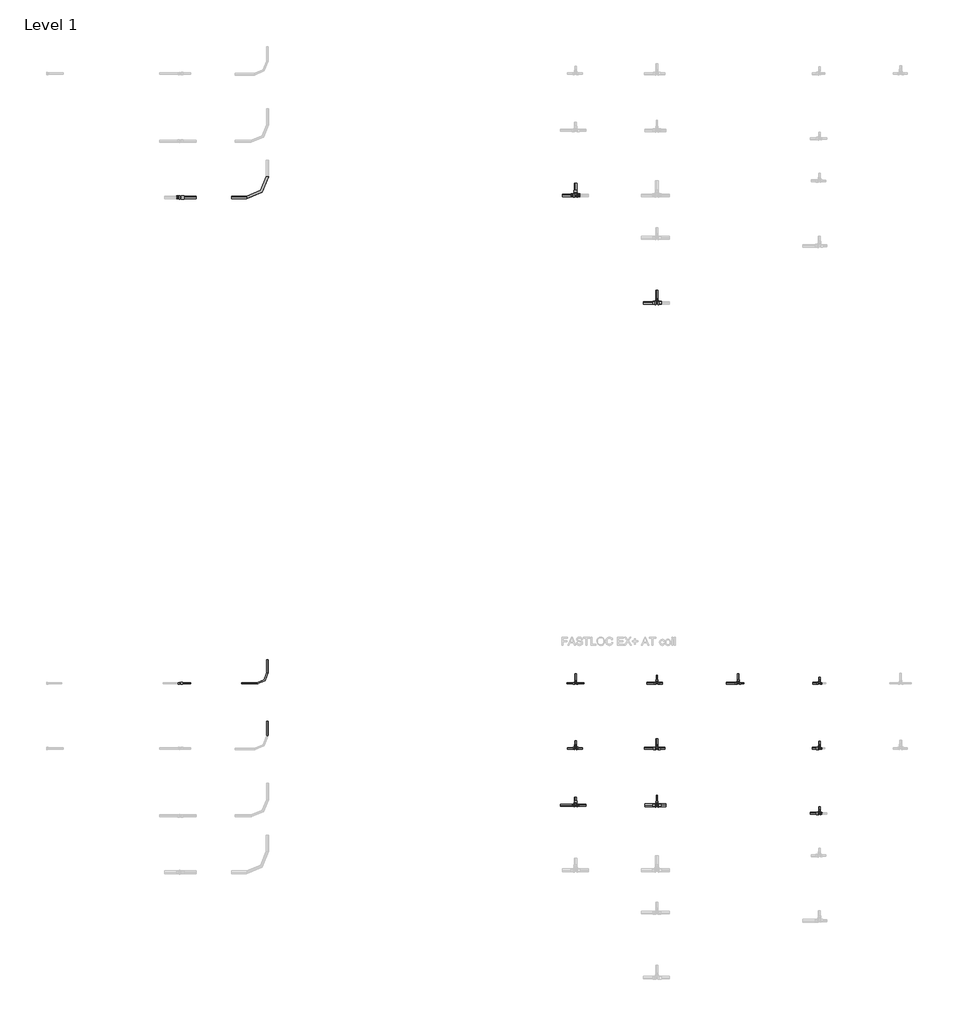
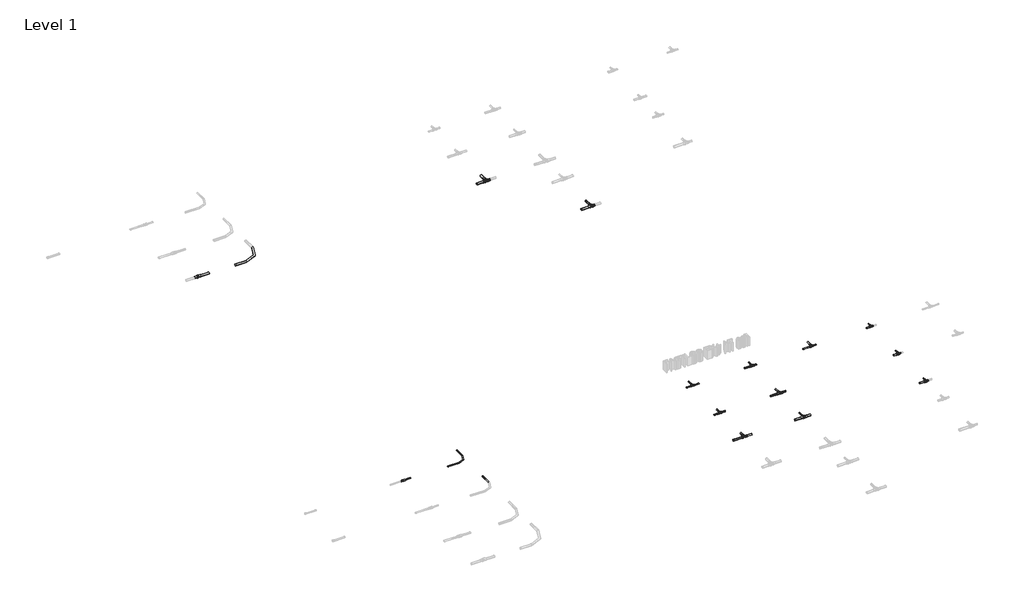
# One storey, part 6 of 16: 37 pipe segments, 18 pipe fittings.
"""IFC4 building model written with IfcOpenShell, lengths in millimetres."""

from ifc_helpers import new_model, si_unit, point, frame, frame_2d, origin, place, context, project, spatial, circle_curve, trimmed, segment, composite_curve, outline, extrude, transform, mapped, element, save
from components import pipe_fitting_6d1999ba, pipe_fitting_8a207ca9, pipe_fitting_c9c9eba3, pipe_fitting_a8fbe6ac, pipe_fitting_373418fb, pipe_fitting_bc9683d6, pipe_fitting_29655fe2, pipe_fitting_378a86a2, pipe_fitting_26206a52, pipe_fitting_e85672de, pipe_fitting_b8b68d19, pipe_fitting_24fba4d8, pipe_fitting_22a72f01, pipe_fitting_0153befe, pipe_fitting_3090ac59, pipe_fitting_8e4805be, pipe_fitting_271ef6d1, pipe_fitting_4892b1d5

model = new_model("IFC4")

# Units and contexts
model_context = context("Model", 3, world=origin())
ifc_project = project(units=[si_unit("LENGTHUNIT", "METRE", prefix="MILLI")], contexts=[model_context])

# Site, building, storey
site = spatial("IfcSite", under=ifc_project)
building = spatial("IfcBuilding", under=site)
storey = spatial("IfcBuildingStorey", under=building, Name="Level 1", Elevation=0.0)

# Pipe fittings
placement = place(None, origin())
pipe_fitting_shape = pipe_fitting_6d1999ba(model_context)
element("IfcPipeFitting", 1, ObjectType="FASTLOC_Adapter coupling EX+ : FSL TC EX+ AT", at=placement, inside=storey, context=model_context, shape_type="MappedRepresentation", body=[
    mapped(pipe_fitting_shape, transform((24091.3241081, -6287.6479967, 13.7), x_axis=(1.0, 0.0, 0.0), y_axis=(0.0, 1.0, 0.0), z_axis=(0.0, 0.0, 1.0))),
])
pipe_fitting_2_shape = pipe_fitting_8a207ca9(model_context)
element("IfcPipeFitting", 2, ObjectType="FASTLOC_ML_bend : FSL ML AT", at=placement, inside=storey, context=model_context, shape_type="MappedRepresentation", body=[
    mapped(pipe_fitting_2_shape, transform((25170.2040344, -6287.6479967, 0.0), x_axis=(1.0, 0.0, 0.0), y_axis=(0.0, 1.0, 0.0), z_axis=(0.0, 0.0, 1.0))),
])
pipe_fitting_3_shape = pipe_fitting_c9c9eba3(model_context)
element("IfcPipeFitting", 3, ObjectType="RAUTITAN_Sleeve PX : RTI S PX", at=placement, inside=storey, context=model_context, shape_type="MappedRepresentation", body=[
    mapped(pipe_fitting_3_shape, transform((24105.0241081, -6287.6479967, 13.7), x_axis=(1.0, 0.0, 0.0), y_axis=(0.0, 1.0, 0.0), z_axis=(0.0, 0.0, 1.0))),
])
pipe_fitting_4_shape = pipe_fitting_a8fbe6ac(model_context)
element("IfcPipeFitting", 4, ObjectType="RAUTITAN_Sleeve PX : RTI S PX", at=placement, inside=storey, context=model_context, shape_type="MappedRepresentation", body=[
    mapped(pipe_fitting_4_shape, transform((24110.6241081, -311.8142398, 13.7), x_axis=(1.0, 0.0, 0.0), y_axis=(0.0, 1.0, 0.0), z_axis=(0.0, 0.0, 1.0))),
])
pipe_fitting_5_shape = pipe_fitting_373418fb(model_context)
element("IfcPipeFitting", 5, ObjectType="FASTLOC_ML_bend : FSL ML DE", at=placement, inside=storey, context=model_context, shape_type="MappedRepresentation", body=[
    mapped(pipe_fitting_5_shape, transform((25170.2040344, -311.8142398, 0.0), x_axis=(1.0, 0.0, 0.0), y_axis=(0.0, 1.0, 0.0), z_axis=(0.0, 0.0, 1.0))),
])
pipe_fitting_6_shape = pipe_fitting_bc9683d6(model_context)
element("IfcPipeFitting", 6, ObjectType="FASTLOC_T-piece_EX+ : FSL T-Piece EX+ DE", at=placement, inside=storey, context=model_context, shape_type="MappedRepresentation", body=[
    mapped(pipe_fitting_6_shape, transform((28962.9146925, -287.6479967, 0.0), x_axis=(1.0, 0.0, 0.0), y_axis=(0.0, 1.0, 0.0), z_axis=(0.0, 0.0, 1.0))),
])
pipe_fitting_7_shape = pipe_fitting_29655fe2(model_context)
element("IfcPipeFitting", 7, ObjectType="FASTLOC_T-piece_EX+ : FSL T-Piece EX+ DE", at=placement, inside=storey, context=model_context, shape_type="MappedRepresentation", body=[
    mapped(pipe_fitting_7_shape, transform((29962.9146925, -1607.6479967, 0.0), x_axis=(1.0, 0.0, 0.0), y_axis=(0.0, 1.0, 0.0), z_axis=(0.0, 0.0, 1.0))),
])
pipe_fitting_8_shape = pipe_fitting_378a86a2(model_context)
element("IfcPipeFitting", 8, ObjectType="FASTLOC_T-piece_EX+ : FSL T-Piece EX+ AT", at=placement, inside=storey, context=model_context, shape_type="MappedRepresentation", body=[
    mapped(pipe_fitting_8_shape, transform((28962.9146925, -6287.6479967, 0.0), x_axis=(1.0, 0.0, 0.0), y_axis=(0.0, 1.0, 0.0), z_axis=(0.0, 0.0, 1.0))),
])
pipe_fitting_9_shape = pipe_fitting_26206a52(model_context)
element("IfcPipeFitting", 9, ObjectType="FASTLOC_T-piece_EX+ : FSL T-Piece EX+ AT", at=placement, inside=storey, context=model_context, shape_type="MappedRepresentation", body=[
    mapped(pipe_fitting_9_shape, transform((28962.9146925, -7087.6479967, 0.0), x_axis=(1.0, 0.0, 0.0), y_axis=(0.0, 1.0, 0.0), z_axis=(0.0, 0.0, 1.0))),
])
pipe_fitting_10_shape = pipe_fitting_e85672de(model_context)
element("IfcPipeFitting", 10, ObjectType="FASTLOC_T-piece_EX+ : FSL T-Piece EX+ AT", at=placement, inside=storey, context=model_context, shape_type="MappedRepresentation", body=[
    mapped(pipe_fitting_10_shape, transform((28962.9146925, -7787.6479967, 0.0), x_axis=(1.0, 0.0, 0.0), y_axis=(0.0, 1.0, 0.0), z_axis=(0.0, 0.0, 1.0))),
])
pipe_fitting_11_shape = pipe_fitting_b8b68d19(model_context)
element("IfcPipeFitting", 11, ObjectType="FASTLOC_T-piece_EX+ : FSL T-Piece EX+ AT", at=placement, inside=storey, context=model_context, shape_type="MappedRepresentation", body=[
    mapped(pipe_fitting_11_shape, transform((29962.9146925, -6287.6479967, 0.0), x_axis=(1.0, 0.0, 0.0), y_axis=(0.0, 1.0, 0.0), z_axis=(0.0, 0.0, 1.0))),
])
pipe_fitting_12_shape = pipe_fitting_24fba4d8(model_context)
element("IfcPipeFitting", 12, ObjectType="FASTLOC_T-piece_EX+ : FSL T-Piece EX+ AT", at=placement, inside=storey, context=model_context, shape_type="MappedRepresentation", body=[
    mapped(pipe_fitting_12_shape, transform((29962.9146925, -7087.6479967, 0.0), x_axis=(1.0, 0.0, 0.0), y_axis=(0.0, 1.0, 0.0), z_axis=(0.0, 0.0, 1.0))),
])
pipe_fitting_13_shape = pipe_fitting_22a72f01(model_context)
element("IfcPipeFitting", 13, ObjectType="FASTLOC_T-piece_EX+ : FSL T-Piece EX+ AT", at=placement, inside=storey, context=model_context, shape_type="MappedRepresentation", body=[
    mapped(pipe_fitting_13_shape, transform((29962.9146925, -7787.6479967, 0.0), x_axis=(1.0, 0.0, 0.0), y_axis=(0.0, 1.0, 0.0), z_axis=(0.0, 0.0, 1.0))),
])
pipe_fitting_14_shape = pipe_fitting_0153befe(model_context)
element("IfcPipeFitting", 14, ObjectType="FASTLOC_T-piece_EX+ : FSL T-Piece EX+ AT", at=placement, inside=storey, context=model_context, shape_type="MappedRepresentation", body=[
    mapped(pipe_fitting_14_shape, transform((30962.9146925, -6287.6479967, 0.0), x_axis=(1.0, 0.0, 0.0), y_axis=(0.0, 1.0, 0.0), z_axis=(0.0, 0.0, 1.0))),
])
pipe_fitting_15_shape = pipe_fitting_3090ac59(model_context)
element("IfcPipeFitting", 15, ObjectType="FASTLOC_T-piece_EX+ : FSL T-Piece EX+ AT", at=placement, inside=storey, context=model_context, shape_type="MappedRepresentation", body=[
    mapped(pipe_fitting_15_shape, transform((31962.9146925, -6287.6479967, 0.0), x_axis=(1.0, 0.0, 0.0), y_axis=(0.0, 1.0, 0.0), z_axis=(0.0, 0.0, 1.0))),
])
pipe_fitting_16_shape = pipe_fitting_8e4805be(model_context)
element("IfcPipeFitting", 16, ObjectType="FASTLOC_T-piece_EX+ : FSL T-Piece EX+ AT", at=placement, inside=storey, context=model_context, shape_type="MappedRepresentation", body=[
    mapped(pipe_fitting_16_shape, transform((31962.9146925, -7087.6479967, 0.0), x_axis=(1.0, 0.0, 0.0), y_axis=(0.0, 1.0, 0.0), z_axis=(0.0, 0.0, 1.0))),
])
pipe_fitting_17_shape = pipe_fitting_271ef6d1(model_context)
element("IfcPipeFitting", 17, ObjectType="FASTLOC_T-piece_EX+ : FSL T-Piece EX+ AT", at=placement, inside=storey, context=model_context, shape_type="MappedRepresentation", body=[
    mapped(pipe_fitting_17_shape, transform((31962.9146925, -7887.6479967, 0.0), x_axis=(1.0, 0.0, 0.0), y_axis=(0.0, 1.0, 0.0), z_axis=(0.0, 0.0, 1.0))),
])
pipe_fitting_18_shape = pipe_fitting_4892b1d5(model_context)
element("IfcPipeFitting", 18, ObjectType="FASTLOC_Adapter coupling EX+ : FSL TC EX+ DE", at=placement, inside=storey, context=model_context, shape_type="MappedRepresentation", body=[
    mapped(pipe_fitting_18_shape, transform((24091.3241081, -311.8142398, 13.7), x_axis=(1.0, 0.0, 0.0), y_axis=(0.0, 1.0, 0.0), z_axis=(0.0, 0.0, 1.0))),
])

# Pipe segments
element("IfcPipeSegment", 19, ObjectType="FASTLOC EX+ ML DE bar", at=placement, inside=storey, context=model_context, shape_type="SweptSolid", body=[
    extrude(outline(composite_curve([segment(trimmed(circle_curve(frame_2d((-311.8142398, 0.0)), 16.0), [point((-295.8142398, 0.0))], [point((-311.8142398, -16.0))], False, "CARTESIAN"), True, "CONTINUOUS"), segment(trimmed(circle_curve(frame_2d((-311.8142398, 0.0)), 16.0), [point((-311.8142398, -16.0))], [point((-327.8142398, 0.0))], False, "CARTESIAN"), True, "CONTINUOUS"), segment(trimmed(circle_curve(frame_2d((-311.8142398, 0.0)), 16.0), [point((-327.8142398, 0.0))], [point((-311.8142398, 16.0))], False, "CARTESIAN"), True, "CONTINUOUS"), segment(trimmed(circle_curve(frame_2d((-311.8142398, 0.0)), 16.0), [point((-311.8142398, 16.0))], [point((-295.8142398, 0.0))], False, "CARTESIAN"), True, "CONTINUOUS")], self_intersect=False)), frame((24730.2040344, 0.0, 0.0), z_axis=(1.0, 0.0, 0.0), x_axis=(0.0, 1.0, 0.0)), (0.0, 0.0, 1.0), 184.0),
])
element("IfcPipeSegment", 20, ObjectType="FASTLOC EX+ ML DE bar", at=placement, inside=storey, context=model_context, shape_type="SweptSolid", body=[
    extrude(outline(composite_curve([segment(trimmed(circle_curve(frame_2d((-311.8142398, 13.7)), 16.0), [point((-327.8142398, 13.7))], [point((-311.8142398, 29.7))], False, "CARTESIAN"), True, "CONTINUOUS"), segment(trimmed(circle_curve(frame_2d((-311.8142398, 13.7)), 16.0), [point((-311.8142398, 29.7))], [point((-295.8142398, 13.7))], False, "CARTESIAN"), True, "CONTINUOUS"), segment(trimmed(circle_curve(frame_2d((-311.8142398, 13.7)), 16.0), [point((-295.8142398, 13.7))], [point((-311.8142398, -2.3))], False, "CARTESIAN"), True, "CONTINUOUS"), segment(trimmed(circle_curve(frame_2d((-311.8142398, 13.7)), 16.0), [point((-311.8142398, -2.3))], [point((-327.8142398, 13.7))], False, "CARTESIAN"), True, "CONTINUOUS")], self_intersect=False)), frame((24110.6241081, 0.0, 0.0), z_axis=(1.0, 0.0, 0.0), x_axis=(0.0, 1.0, 0.0)), (0.0, 0.0, 1.0), 180.0),
])
element("IfcPipeSegment", 21, ObjectType="FASTLOC EX+ ML AT bar", at=placement, inside=storey, context=model_context, shape_type="SweptSolid", body=[
    extrude(outline(composite_curve([segment(trimmed(circle_curve(frame_2d((0.0, 25170.2040344)), 8.0), [point((0.0, 25178.2040344))], [point((8.0, 25170.2040344))], False, "CARTESIAN"), True, "CONTINUOUS"), segment(trimmed(circle_curve(frame_2d((0.0, 25170.2040344)), 8.0), [point((8.0, 25170.2040344))], [point((0.0, 25162.2040344))], False, "CARTESIAN"), True, "CONTINUOUS"), segment(trimmed(circle_curve(frame_2d((0.0, 25170.2040344)), 8.0), [point((0.0, 25162.2040344))], [point((-8.0, 25170.2040344))], False, "CARTESIAN"), True, "CONTINUOUS"), segment(trimmed(circle_curve(frame_2d((0.0, 25170.2040344)), 8.0), [point((-8.0, 25170.2040344))], [point((0.0, 25178.2040344))], False, "CARTESIAN"), True, "CONTINUOUS")], self_intersect=False)), frame((0.0, -6159.6479967, 0.0), z_axis=(0.0, 1.0, 0.0), x_axis=(0.0, 0.0, 1.0)), (0.0, 0.0, 1.0), 160.0),
])
element("IfcPipeSegment", 22, ObjectType="FASTLOC EX+ ML AT bar", at=placement, inside=storey, context=model_context, shape_type="SweptSolid", body=[
    extrude(outline(composite_curve([segment(trimmed(circle_curve(frame_2d((-6287.6479967, 0.0)), 8.0), [point((-6279.6479967, 0.0))], [point((-6287.6479967, -8.0))], False, "CARTESIAN"), True, "CONTINUOUS"), segment(trimmed(circle_curve(frame_2d((-6287.6479967, 0.0)), 8.0), [point((-6287.6479967, -8.0))], [point((-6295.6479967, 0.0))], False, "CARTESIAN"), True, "CONTINUOUS"), segment(trimmed(circle_curve(frame_2d((-6287.6479967, 0.0)), 8.0), [point((-6295.6479967, 0.0))], [point((-6287.6479967, 8.0))], False, "CARTESIAN"), True, "CONTINUOUS"), segment(trimmed(circle_curve(frame_2d((-6287.6479967, 0.0)), 8.0), [point((-6287.6479967, 8.0))], [point((-6279.6479967, 0.0))], False, "CARTESIAN"), True, "CONTINUOUS")], self_intersect=False)), frame((24850.2040344, 0.0, 0.0), z_axis=(1.0, 0.0, 0.0), x_axis=(0.0, 1.0, 0.0)), (0.0, 0.0, 1.0), 192.0),
])
element("IfcPipeSegment", 23, ObjectType="FASTLOC EX+ ML AT bar", at=placement, inside=storey, context=model_context, shape_type="SweptSolid", body=[
    extrude(outline(composite_curve([segment(trimmed(circle_curve(frame_2d((0.0, 25170.2040344)), 10.0), [point((0.0, 25180.2040344))], [point((10.0, 25170.2040344))], False, "CARTESIAN"), True, "CONTINUOUS"), segment(trimmed(circle_curve(frame_2d((0.0, 25170.2040344)), 10.0), [point((10.0, 25170.2040344))], [point((0.0, 25160.2040344))], False, "CARTESIAN"), True, "CONTINUOUS"), segment(trimmed(circle_curve(frame_2d((0.0, 25170.2040344)), 10.0), [point((0.0, 25160.2040344))], [point((-10.0, 25170.2040344))], False, "CARTESIAN"), True, "CONTINUOUS"), segment(trimmed(circle_curve(frame_2d((0.0, 25170.2040344)), 10.0), [point((-10.0, 25170.2040344))], [point((0.0, 25180.2040344))], False, "CARTESIAN"), True, "CONTINUOUS")], self_intersect=False)), frame((0.0, -6935.6479967, 0.0), z_axis=(0.0, 1.0, 0.0), x_axis=(0.0, 0.0, 1.0)), (0.0, 0.0, 1.0), 180.0),
])
element("IfcPipeSegment", 24, ObjectType="FASTLOC EX+ ML AT bar", at=placement, inside=storey, context=model_context, shape_type="SweptSolid", body=[
    extrude(outline(composite_curve([segment(trimmed(circle_curve(frame_2d((-6287.6479967, 13.7)), 8.0), [point((-6295.6479967, 13.7))], [point((-6287.6479967, 21.7))], False, "CARTESIAN"), True, "CONTINUOUS"), segment(trimmed(circle_curve(frame_2d((-6287.6479967, 13.7)), 8.0), [point((-6287.6479967, 21.7))], [point((-6279.6479967, 13.7))], False, "CARTESIAN"), True, "CONTINUOUS"), segment(trimmed(circle_curve(frame_2d((-6287.6479967, 13.7)), 8.0), [point((-6279.6479967, 13.7))], [point((-6287.6479967, 5.7))], False, "CARTESIAN"), True, "CONTINUOUS"), segment(trimmed(circle_curve(frame_2d((-6287.6479967, 13.7)), 8.0), [point((-6287.6479967, 5.7))], [point((-6295.6479967, 13.7))], False, "CARTESIAN"), True, "CONTINUOUS")], self_intersect=False)), frame((24105.0241081, 0.0, 0.0), z_axis=(1.0, 0.0, 0.0), x_axis=(0.0, 1.0, 0.0)), (0.0, 0.0, 1.0), 120.6),
])
element("IfcPipeSegment", 25, ObjectType="FASTLOC EX+ ML DE coil", at=placement, inside=storey, context=model_context, shape_type="SweptSolid", body=[
    extrude(outline(composite_curve([segment(trimmed(circle_curve(frame_2d((-1607.6479967, 0.0)), 16.0), [point((-1591.6479967, 0.0))], [point((-1607.6479967, -16.0))], False, "CARTESIAN"), True, "CONTINUOUS"), segment(trimmed(circle_curve(frame_2d((-1607.6479967, 0.0)), 16.0), [point((-1607.6479967, -16.0))], [point((-1623.6479967, 0.0))], False, "CARTESIAN"), True, "CONTINUOUS"), segment(trimmed(circle_curve(frame_2d((-1607.6479967, 0.0)), 16.0), [point((-1623.6479967, 0.0))], [point((-1607.6479967, 16.0))], False, "CARTESIAN"), True, "CONTINUOUS"), segment(trimmed(circle_curve(frame_2d((-1607.6479967, 0.0)), 16.0), [point((-1607.6479967, 16.0))], [point((-1591.6479967, 0.0))], False, "CARTESIAN"), True, "CONTINUOUS")], self_intersect=False)), frame((29795.9146925, 0.0, 0.0), z_axis=(1.0, 0.0, 0.0), x_axis=(0.0, 1.0, 0.0)), (0.0, 0.0, 1.0), 145.0),
])
element("IfcPipeSegment", 26, ObjectType="FASTLOC EX+ ML DE coil", at=placement, inside=storey, context=model_context, shape_type="SweptSolid", body=[
    extrude(outline(composite_curve([segment(trimmed(circle_curve(frame_2d((0.0, 29962.9146925)), 12.5), [point((0.0, 29975.4146925))], [point((12.5, 29962.9146925))], False, "CARTESIAN"), True, "CONTINUOUS"), segment(trimmed(circle_curve(frame_2d((0.0, 29962.9146925)), 12.5), [point((12.5, 29962.9146925))], [point((0.0, 29950.4146925))], False, "CARTESIAN"), True, "CONTINUOUS"), segment(trimmed(circle_curve(frame_2d((0.0, 29962.9146925)), 12.5), [point((0.0, 29950.4146925))], [point((-12.5, 29962.9146925))], False, "CARTESIAN"), True, "CONTINUOUS"), segment(trimmed(circle_curve(frame_2d((0.0, 29962.9146925)), 12.5), [point((-12.5, 29962.9146925))], [point((0.0, 29975.4146925))], False, "CARTESIAN"), True, "CONTINUOUS")], self_intersect=False)), frame((0.0, -1573.2479967, 0.0), z_axis=(0.0, 1.0, 0.0), x_axis=(0.0, 0.0, 1.0)), (0.0, 0.0, 1.0), 120.0),
])
element("IfcPipeSegment", 27, ObjectType="FASTLOC EX+ ML DE coil", at=placement, inside=storey, context=model_context, shape_type="SweptSolid", body=[
    extrude(outline(composite_curve([segment(trimmed(circle_curve(frame_2d((-287.6479967, 0.0)), 16.0), [point((-271.6479967, 0.0))], [point((-287.6479967, -16.0))], False, "CARTESIAN"), True, "CONTINUOUS"), segment(trimmed(circle_curve(frame_2d((-287.6479967, 0.0)), 16.0), [point((-287.6479967, -16.0))], [point((-303.6479967, 0.0))], False, "CARTESIAN"), True, "CONTINUOUS"), segment(trimmed(circle_curve(frame_2d((-287.6479967, 0.0)), 16.0), [point((-303.6479967, 0.0))], [point((-287.6479967, 16.0))], False, "CARTESIAN"), True, "CONTINUOUS"), segment(trimmed(circle_curve(frame_2d((-287.6479967, 0.0)), 16.0), [point((-287.6479967, 16.0))], [point((-271.6479967, 0.0))], False, "CARTESIAN"), True, "CONTINUOUS")], self_intersect=False)), frame((28803.1146925, 0.0, 0.0), z_axis=(1.0, 0.0, 0.0), x_axis=(0.0, 1.0, 0.0)), (0.0, 0.0, 1.0), 135.0),
])
element("IfcPipeSegment", 28, ObjectType="FASTLOC EX+ ML DE coil", at=placement, inside=storey, context=model_context, shape_type="SweptSolid", body=[
    extrude(outline(composite_curve([segment(trimmed(circle_curve(frame_2d((0.0, 28962.9146925)), 16.0), [point((0.0, 28978.9146925))], [point((16.0, 28962.9146925))], False, "CARTESIAN"), True, "CONTINUOUS"), segment(trimmed(circle_curve(frame_2d((0.0, 28962.9146925)), 16.0), [point((16.0, 28962.9146925))], [point((0.0, 28946.9146925))], False, "CARTESIAN"), True, "CONTINUOUS"), segment(trimmed(circle_curve(frame_2d((0.0, 28962.9146925)), 16.0), [point((0.0, 28946.9146925))], [point((-16.0, 28962.9146925))], False, "CARTESIAN"), True, "CONTINUOUS"), segment(trimmed(circle_curve(frame_2d((0.0, 28962.9146925)), 16.0), [point((-16.0, 28962.9146925))], [point((0.0, 28978.9146925))], False, "CARTESIAN"), True, "CONTINUOUS")], self_intersect=False)), frame((0.0, -251.5479967, 0.0), z_axis=(0.0, 1.0, 0.0), x_axis=(0.0, 0.0, 1.0)), (0.0, 0.0, 1.0), 115.0),
])
element("IfcPipeSegment", 29, ObjectType="FASTLOC EX+ ML AT coil", at=placement, inside=storey, context=model_context, shape_type="SweptSolid", body=[
    extrude(outline(composite_curve([segment(trimmed(circle_curve(frame_2d((-6287.6479967, 0.0)), 10.0), [point((-6277.6479967, 0.0))], [point((-6287.6479967, -10.0))], False, "CARTESIAN"), True, "CONTINUOUS"), segment(trimmed(circle_curve(frame_2d((-6287.6479967, 0.0)), 10.0), [point((-6287.6479967, -10.0))], [point((-6297.6479967, 0.0))], False, "CARTESIAN"), True, "CONTINUOUS"), segment(trimmed(circle_curve(frame_2d((-6287.6479967, 0.0)), 10.0), [point((-6297.6479967, 0.0))], [point((-6287.6479967, 10.0))], False, "CARTESIAN"), True, "CONTINUOUS"), segment(trimmed(circle_curve(frame_2d((-6287.6479967, 0.0)), 10.0), [point((-6287.6479967, 10.0))], [point((-6277.6479967, 0.0))], False, "CARTESIAN"), True, "CONTINUOUS")], self_intersect=False)), frame((31882.4146925, 0.0, 0.0), z_axis=(1.0, 0.0, 0.0), x_axis=(0.0, 1.0, 0.0)), (0.0, 0.0, 1.0), 65.0),
])
element("IfcPipeSegment", 30, ObjectType="FASTLOC EX+ ML AT coil", at=placement, inside=storey, context=model_context, shape_type="SweptSolid", body=[
    extrude(outline(composite_curve([segment(trimmed(circle_curve(frame_2d((0.0, 31962.9146925)), 8.0), [point((0.0, 31970.9146925))], [point((8.0, 31962.9146925))], False, "CARTESIAN"), True, "CONTINUOUS"), segment(trimmed(circle_curve(frame_2d((0.0, 31962.9146925)), 8.0), [point((8.0, 31962.9146925))], [point((0.0, 31954.9146925))], False, "CARTESIAN"), True, "CONTINUOUS"), segment(trimmed(circle_curve(frame_2d((0.0, 31962.9146925)), 8.0), [point((0.0, 31954.9146925))], [point((-8.0, 31962.9146925))], False, "CARTESIAN"), True, "CONTINUOUS"), segment(trimmed(circle_curve(frame_2d((0.0, 31962.9146925)), 8.0), [point((-8.0, 31962.9146925))], [point((0.0, 31970.9146925))], False, "CARTESIAN"), True, "CONTINUOUS")], self_intersect=False)), frame((0.0, -6261.2479967, 0.0), z_axis=(0.0, 1.0, 0.0), x_axis=(0.0, 0.0, 1.0)), (0.0, 0.0, 1.0), 50.0),
])
element("IfcPipeSegment", 31, ObjectType="FASTLOC EX+ ML AT coil", at=placement, inside=storey, context=model_context, shape_type="SweptSolid", body=[
    extrude(outline(composite_curve([segment(trimmed(circle_curve(frame_2d((-7087.6479967, 0.0)), 12.5), [point((-7075.1479967, 0.0))], [point((-7087.6479967, -12.5))], False, "CARTESIAN"), True, "CONTINUOUS"), segment(trimmed(circle_curve(frame_2d((-7087.6479967, 0.0)), 12.5), [point((-7087.6479967, -12.5))], [point((-7100.1479967, 0.0))], False, "CARTESIAN"), True, "CONTINUOUS"), segment(trimmed(circle_curve(frame_2d((-7087.6479967, 0.0)), 12.5), [point((-7100.1479967, 0.0))], [point((-7087.6479967, 12.5))], False, "CARTESIAN"), True, "CONTINUOUS"), segment(trimmed(circle_curve(frame_2d((-7087.6479967, 0.0)), 12.5), [point((-7087.6479967, 12.5))], [point((-7075.1479967, 0.0))], False, "CARTESIAN"), True, "CONTINUOUS")], self_intersect=False)), frame((31876.5146925, 0.0, 0.0), z_axis=(1.0, 0.0, 0.0), x_axis=(0.0, 1.0, 0.0)), (0.0, 0.0, 1.0), 70.0),
])
element("IfcPipeSegment", 32, ObjectType="FASTLOC EX+ ML AT coil", at=placement, inside=storey, context=model_context, shape_type="SweptSolid", body=[
    extrude(outline(composite_curve([segment(trimmed(circle_curve(frame_2d((0.0, 31962.9146925)), 8.0), [point((0.0, 31970.9146925))], [point((8.0, 31962.9146925))], False, "CARTESIAN"), True, "CONTINUOUS"), segment(trimmed(circle_curve(frame_2d((0.0, 31962.9146925)), 8.0), [point((8.0, 31962.9146925))], [point((0.0, 31954.9146925))], False, "CARTESIAN"), True, "CONTINUOUS"), segment(trimmed(circle_curve(frame_2d((0.0, 31962.9146925)), 8.0), [point((0.0, 31954.9146925))], [point((-8.0, 31962.9146925))], False, "CARTESIAN"), True, "CONTINUOUS"), segment(trimmed(circle_curve(frame_2d((0.0, 31962.9146925)), 8.0), [point((-8.0, 31962.9146925))], [point((0.0, 31970.9146925))], False, "CARTESIAN"), True, "CONTINUOUS")], self_intersect=False)), frame((0.0, -7058.5479967, 0.0), z_axis=(0.0, 1.0, 0.0), x_axis=(0.0, 0.0, 1.0)), (0.0, 0.0, 1.0), 57.2788778),
])
element("IfcPipeSegment", 33, ObjectType="FASTLOC EX+ ML AT coil", at=placement, inside=storey, context=model_context, shape_type="SweptSolid", body=[
    extrude(outline(composite_curve([segment(trimmed(circle_curve(frame_2d((0.0, 31962.9146925)), 8.0), [point((0.0, 31970.9146925))], [point((8.0, 31962.9146925))], False, "CARTESIAN"), True, "CONTINUOUS"), segment(trimmed(circle_curve(frame_2d((0.0, 31962.9146925)), 8.0), [point((8.0, 31962.9146925))], [point((0.0, 31954.9146925))], False, "CARTESIAN"), True, "CONTINUOUS"), segment(trimmed(circle_curve(frame_2d((0.0, 31962.9146925)), 8.0), [point((0.0, 31954.9146925))], [point((-8.0, 31962.9146925))], False, "CARTESIAN"), True, "CONTINUOUS"), segment(trimmed(circle_curve(frame_2d((0.0, 31962.9146925)), 8.0), [point((-8.0, 31962.9146925))], [point((0.0, 31970.9146925))], False, "CARTESIAN"), True, "CONTINUOUS")], self_intersect=False)), frame((0.0, -7858.5479967, 0.0), z_axis=(0.0, 1.0, 0.0), x_axis=(0.0, 0.0, 1.0)), (0.0, 0.0, 1.0), 50.0),
])
element("IfcPipeSegment", 34, ObjectType="FASTLOC EX+ ML AT coil", at=placement, inside=storey, context=model_context, shape_type="SweptSolid", body=[
    extrude(outline(composite_curve([segment(trimmed(circle_curve(frame_2d((-7887.6479967, 0.0)), 12.5), [point((-7875.1479967, 0.0))], [point((-7887.6479967, -12.5))], False, "CARTESIAN"), True, "CONTINUOUS"), segment(trimmed(circle_curve(frame_2d((-7887.6479967, 0.0)), 12.5), [point((-7887.6479967, -12.5))], [point((-7900.1479967, 0.0))], False, "CARTESIAN"), True, "CONTINUOUS"), segment(trimmed(circle_curve(frame_2d((-7887.6479967, 0.0)), 12.5), [point((-7900.1479967, 0.0))], [point((-7887.6479967, 12.5))], False, "CARTESIAN"), True, "CONTINUOUS"), segment(trimmed(circle_curve(frame_2d((-7887.6479967, 0.0)), 12.5), [point((-7887.6479967, 12.5))], [point((-7875.1479967, 0.0))], False, "CARTESIAN"), True, "CONTINUOUS")], self_intersect=False)), frame((31851.5146925, 0.0, 0.0), z_axis=(1.0, 0.0, 0.0), x_axis=(0.0, 1.0, 0.0)), (0.0, 0.0, 1.0), 95.0),
])
element("IfcPipeSegment", 35, ObjectType="FASTLOC EX+ ML AT coil", at=placement, inside=storey, context=model_context, shape_type="SweptSolid", body=[
    extrude(outline(composite_curve([segment(trimmed(circle_curve(frame_2d((-6287.6479967, 0.0)), 8.0), [point((-6295.6479967, 0.0))], [point((-6287.6479967, 8.0))], False, "CARTESIAN"), True, "CONTINUOUS"), segment(trimmed(circle_curve(frame_2d((-6287.6479967, 0.0)), 8.0), [point((-6287.6479967, 8.0))], [point((-6279.6479967, 0.0))], False, "CARTESIAN"), True, "CONTINUOUS"), segment(trimmed(circle_curve(frame_2d((-6287.6479967, 0.0)), 8.0), [point((-6279.6479967, 0.0))], [point((-6287.6479967, -8.0))], False, "CARTESIAN"), True, "CONTINUOUS"), segment(trimmed(circle_curve(frame_2d((-6287.6479967, 0.0)), 8.0), [point((-6287.6479967, -8.0))], [point((-6295.6479967, 0.0))], False, "CARTESIAN"), True, "CONTINUOUS")], self_intersect=False)), frame((30979.9146925, 0.0, 0.0), z_axis=(1.0, 0.0, 0.0), x_axis=(0.0, 1.0, 0.0)), (0.0, 0.0, 1.0), 55.0),
])
element("IfcPipeSegment", 36, ObjectType="FASTLOC EX+ ML AT coil", at=placement, inside=storey, context=model_context, shape_type="SweptSolid", body=[
    extrude(outline(composite_curve([segment(trimmed(circle_curve(frame_2d((0.0, 30962.9146925)), 10.0), [point((0.0, 30972.9146925))], [point((10.0, 30962.9146925))], False, "CARTESIAN"), True, "CONTINUOUS"), segment(trimmed(circle_curve(frame_2d((0.0, 30962.9146925)), 10.0), [point((10.0, 30962.9146925))], [point((0.0, 30952.9146925))], False, "CARTESIAN"), True, "CONTINUOUS"), segment(trimmed(circle_curve(frame_2d((0.0, 30962.9146925)), 10.0), [point((0.0, 30952.9146925))], [point((-10.0, 30962.9146925))], False, "CARTESIAN"), True, "CONTINUOUS"), segment(trimmed(circle_curve(frame_2d((0.0, 30962.9146925)), 10.0), [point((-10.0, 30962.9146925))], [point((0.0, 30972.9146925))], False, "CARTESIAN"), True, "CONTINUOUS")], self_intersect=False)), frame((0.0, -6261.2479967, 0.0), z_axis=(0.0, 1.0, 0.0), x_axis=(0.0, 0.0, 1.0)), (0.0, 0.0, 1.0), 90.0),
])
element("IfcPipeSegment", 37, ObjectType="FASTLOC EX+ ML AT coil", at=placement, inside=storey, context=model_context, shape_type="SweptSolid", body=[
    extrude(outline(composite_curve([segment(trimmed(circle_curve(frame_2d((-6287.6479967, 0.0)), 10.0), [point((-6277.6479967, 0.0))], [point((-6287.6479967, -10.0))], False, "CARTESIAN"), True, "CONTINUOUS"), segment(trimmed(circle_curve(frame_2d((-6287.6479967, 0.0)), 10.0), [point((-6287.6479967, -10.0))], [point((-6297.6479967, 0.0))], False, "CARTESIAN"), True, "CONTINUOUS"), segment(trimmed(circle_curve(frame_2d((-6287.6479967, 0.0)), 10.0), [point((-6297.6479967, 0.0))], [point((-6287.6479967, 10.0))], False, "CARTESIAN"), True, "CONTINUOUS"), segment(trimmed(circle_curve(frame_2d((-6287.6479967, 0.0)), 10.0), [point((-6287.6479967, 10.0))], [point((-6277.6479967, 0.0))], False, "CARTESIAN"), True, "CONTINUOUS")], self_intersect=False)), frame((30815.5146925, 0.0, 0.0), z_axis=(1.0, 0.0, 0.0), x_axis=(0.0, 1.0, 0.0)), (0.0, 0.0, 1.0), 130.0),
])
element("IfcPipeSegment", 38, ObjectType="FASTLOC EX+ ML AT coil", at=placement, inside=storey, context=model_context, shape_type="SweptSolid", body=[
    extrude(outline(composite_curve([segment(trimmed(circle_curve(frame_2d((-6287.6479967, 0.0)), 10.0), [point((-6297.6479967, 0.0))], [point((-6287.6479967, 10.0))], False, "CARTESIAN"), True, "CONTINUOUS"), segment(trimmed(circle_curve(frame_2d((-6287.6479967, 0.0)), 10.0), [point((-6287.6479967, 10.0))], [point((-6277.6479967, 0.0))], False, "CARTESIAN"), True, "CONTINUOUS"), segment(trimmed(circle_curve(frame_2d((-6287.6479967, 0.0)), 10.0), [point((-6277.6479967, 0.0))], [point((-6287.6479967, -10.0))], False, "CARTESIAN"), True, "CONTINUOUS"), segment(trimmed(circle_curve(frame_2d((-6287.6479967, 0.0)), 10.0), [point((-6287.6479967, -10.0))], [point((-6297.6479967, 0.0))], False, "CARTESIAN"), True, "CONTINUOUS")], self_intersect=False)), frame((29978.2146925, 0.0, 0.0), z_axis=(1.0, 0.0, 0.0), x_axis=(0.0, 1.0, 0.0)), (0.0, 0.0, 1.0), 55.0),
])
element("IfcPipeSegment", 39, ObjectType="FASTLOC EX+ ML AT coil", at=placement, inside=storey, context=model_context, shape_type="SweptSolid", body=[
    extrude(outline(composite_curve([segment(trimmed(circle_curve(frame_2d((0.0, 29962.9146925)), 8.0), [point((0.0, 29970.9146925))], [point((8.0, 29962.9146925))], False, "CARTESIAN"), True, "CONTINUOUS"), segment(trimmed(circle_curve(frame_2d((0.0, 29962.9146925)), 8.0), [point((8.0, 29962.9146925))], [point((0.0, 29954.9146925))], False, "CARTESIAN"), True, "CONTINUOUS"), segment(trimmed(circle_curve(frame_2d((0.0, 29962.9146925)), 8.0), [point((0.0, 29954.9146925))], [point((-8.0, 29962.9146925))], False, "CARTESIAN"), True, "CONTINUOUS"), segment(trimmed(circle_curve(frame_2d((0.0, 29962.9146925)), 8.0), [point((-8.0, 29962.9146925))], [point((0.0, 29970.9146925))], False, "CARTESIAN"), True, "CONTINUOUS")], self_intersect=False)), frame((0.0, -6261.3479967, 0.0), z_axis=(0.0, 1.0, 0.0), x_axis=(0.0, 0.0, 1.0)), (0.0, 0.0, 1.0), 70.0),
])
element("IfcPipeSegment", 40, ObjectType="FASTLOC EX+ ML AT coil", at=placement, inside=storey, context=model_context, shape_type="SweptSolid", body=[
    extrude(outline(composite_curve([segment(trimmed(circle_curve(frame_2d((-6287.6479967, 0.0)), 10.0), [point((-6277.6479967, 0.0))], [point((-6287.6479967, -10.0))], False, "CARTESIAN"), True, "CONTINUOUS"), segment(trimmed(circle_curve(frame_2d((-6287.6479967, 0.0)), 10.0), [point((-6287.6479967, -10.0))], [point((-6297.6479967, 0.0))], False, "CARTESIAN"), True, "CONTINUOUS"), segment(trimmed(circle_curve(frame_2d((-6287.6479967, 0.0)), 10.0), [point((-6297.6479967, 0.0))], [point((-6287.6479967, 10.0))], False, "CARTESIAN"), True, "CONTINUOUS"), segment(trimmed(circle_curve(frame_2d((-6287.6479967, 0.0)), 10.0), [point((-6287.6479967, 10.0))], [point((-6277.6479967, 0.0))], False, "CARTESIAN"), True, "CONTINUOUS")], self_intersect=False)), frame((29837.6146925, 0.0, 0.0), z_axis=(1.0, 0.0, 0.0), x_axis=(0.0, 1.0, 0.0)), (0.0, 0.0, 1.0), 110.0),
])
element("IfcPipeSegment", 41, ObjectType="FASTLOC EX+ ML AT coil", at=placement, inside=storey, context=model_context, shape_type="SweptSolid", body=[
    extrude(outline(composite_curve([segment(trimmed(circle_curve(frame_2d((-7087.6479967, 0.0)), 12.5), [point((-7100.1479967, 0.0))], [point((-7087.6479967, 12.5))], False, "CARTESIAN"), True, "CONTINUOUS"), segment(trimmed(circle_curve(frame_2d((-7087.6479967, 0.0)), 12.5), [point((-7087.6479967, 12.5))], [point((-7075.1479967, 0.0))], False, "CARTESIAN"), True, "CONTINUOUS"), segment(trimmed(circle_curve(frame_2d((-7087.6479967, 0.0)), 12.5), [point((-7075.1479967, 0.0))], [point((-7087.6479967, -12.5))], False, "CARTESIAN"), True, "CONTINUOUS"), segment(trimmed(circle_curve(frame_2d((-7087.6479967, 0.0)), 12.5), [point((-7087.6479967, -12.5))], [point((-7100.1479967, 0.0))], False, "CARTESIAN"), True, "CONTINUOUS")], self_intersect=False)), frame((29981.0146925, 0.0, 0.0), z_axis=(1.0, 0.0, 0.0), x_axis=(0.0, 1.0, 0.0)), (0.0, 0.0, 1.0), 80.0),
])
element("IfcPipeSegment", 42, ObjectType="FASTLOC EX+ ML AT coil", at=placement, inside=storey, context=model_context, shape_type="SweptSolid", body=[
    extrude(outline(composite_curve([segment(trimmed(circle_curve(frame_2d((0.0, 29962.9146925)), 10.0), [point((0.0, 29972.9146925))], [point((10.0, 29962.9146925))], False, "CARTESIAN"), True, "CONTINUOUS"), segment(trimmed(circle_curve(frame_2d((0.0, 29962.9146925)), 10.0), [point((10.0, 29962.9146925))], [point((0.0, 29952.9146925))], False, "CARTESIAN"), True, "CONTINUOUS"), segment(trimmed(circle_curve(frame_2d((0.0, 29962.9146925)), 10.0), [point((0.0, 29952.9146925))], [point((-10.0, 29962.9146925))], False, "CARTESIAN"), True, "CONTINUOUS"), segment(trimmed(circle_curve(frame_2d((0.0, 29962.9146925)), 10.0), [point((-10.0, 29962.9146925))], [point((0.0, 29972.9146925))], False, "CARTESIAN"), True, "CONTINUOUS")], self_intersect=False)), frame((0.0, -7058.4479967, 0.0), z_axis=(0.0, 1.0, 0.0), x_axis=(0.0, 0.0, 1.0)), (0.0, 0.0, 1.0), 90.0),
])
element("IfcPipeSegment", 43, ObjectType="FASTLOC EX+ ML AT coil", at=placement, inside=storey, context=model_context, shape_type="SweptSolid", body=[
    extrude(outline(composite_curve([segment(trimmed(circle_curve(frame_2d((-7087.6479967, 0.0)), 12.5), [point((-7075.1479967, 0.0))], [point((-7087.6479967, -12.5))], False, "CARTESIAN"), True, "CONTINUOUS"), segment(trimmed(circle_curve(frame_2d((-7087.6479967, 0.0)), 12.5), [point((-7087.6479967, -12.5))], [point((-7100.1479967, 0.0))], False, "CARTESIAN"), True, "CONTINUOUS"), segment(trimmed(circle_curve(frame_2d((-7087.6479967, 0.0)), 12.5), [point((-7100.1479967, 0.0))], [point((-7087.6479967, 12.5))], False, "CARTESIAN"), True, "CONTINUOUS"), segment(trimmed(circle_curve(frame_2d((-7087.6479967, 0.0)), 12.5), [point((-7087.6479967, 12.5))], [point((-7075.1479967, 0.0))], False, "CARTESIAN"), True, "CONTINUOUS")], self_intersect=False)), frame((29809.8146925, 0.0, 0.0), z_axis=(1.0, 0.0, 0.0), x_axis=(0.0, 1.0, 0.0)), (0.0, 0.0, 1.0), 135.0),
])
element("IfcPipeSegment", 44, ObjectType="FASTLOC EX+ ML AT coil", at=placement, inside=storey, context=model_context, shape_type="SweptSolid", body=[
    extrude(outline(composite_curve([segment(trimmed(circle_curve(frame_2d((-7787.6479967, 0.0)), 16.0), [point((-7803.6479967, 0.0))], [point((-7787.6479967, 16.0))], False, "CARTESIAN"), True, "CONTINUOUS"), segment(trimmed(circle_curve(frame_2d((-7787.6479967, 0.0)), 16.0), [point((-7787.6479967, 16.0))], [point((-7771.6479967, 0.0))], False, "CARTESIAN"), True, "CONTINUOUS"), segment(trimmed(circle_curve(frame_2d((-7787.6479967, 0.0)), 16.0), [point((-7771.6479967, 0.0))], [point((-7787.6479967, -16.0))], False, "CARTESIAN"), True, "CONTINUOUS"), segment(trimmed(circle_curve(frame_2d((-7787.6479967, 0.0)), 16.0), [point((-7787.6479967, -16.0))], [point((-7803.6479967, 0.0))], False, "CARTESIAN"), True, "CONTINUOUS")], self_intersect=False)), frame((29981.2146925, 0.0, 0.0), z_axis=(1.0, 0.0, 0.0), x_axis=(0.0, 1.0, 0.0)), (0.0, 0.0, 1.0), 90.0),
])
element("IfcPipeSegment", 45, ObjectType="FASTLOC EX+ ML AT coil", at=placement, inside=storey, context=model_context, shape_type="SweptSolid", body=[
    extrude(outline(composite_curve([segment(trimmed(circle_curve(frame_2d((0.0, 29962.9146925)), 8.0), [point((0.0, 29970.9146925))], [point((8.0, 29962.9146925))], False, "CARTESIAN"), True, "CONTINUOUS"), segment(trimmed(circle_curve(frame_2d((0.0, 29962.9146925)), 8.0), [point((8.0, 29962.9146925))], [point((0.0, 29954.9146925))], False, "CARTESIAN"), True, "CONTINUOUS"), segment(trimmed(circle_curve(frame_2d((0.0, 29962.9146925)), 8.0), [point((0.0, 29954.9146925))], [point((-8.0, 29962.9146925))], False, "CARTESIAN"), True, "CONTINUOUS"), segment(trimmed(circle_curve(frame_2d((0.0, 29962.9146925)), 8.0), [point((-8.0, 29962.9146925))], [point((0.0, 29970.9146925))], False, "CARTESIAN"), True, "CONTINUOUS")], self_intersect=False)), frame((0.0, -7753.7479967, 0.0), z_axis=(0.0, 1.0, 0.0), x_axis=(0.0, 0.0, 1.0)), (0.0, 0.0, 1.0), 90.0),
])
element("IfcPipeSegment", 46, ObjectType="FASTLOC EX+ ML AT coil", at=placement, inside=storey, context=model_context, shape_type="SweptSolid", body=[
    extrude(outline(composite_curve([segment(trimmed(circle_curve(frame_2d((-7787.6479967, 0.0)), 16.0), [point((-7771.6479967, 0.0))], [point((-7787.6479967, -16.0))], False, "CARTESIAN"), True, "CONTINUOUS"), segment(trimmed(circle_curve(frame_2d((-7787.6479967, 0.0)), 16.0), [point((-7787.6479967, -16.0))], [point((-7803.6479967, 0.0))], False, "CARTESIAN"), True, "CONTINUOUS"), segment(trimmed(circle_curve(frame_2d((-7787.6479967, 0.0)), 16.0), [point((-7803.6479967, 0.0))], [point((-7787.6479967, 16.0))], False, "CARTESIAN"), True, "CONTINUOUS"), segment(trimmed(circle_curve(frame_2d((-7787.6479967, 0.0)), 16.0), [point((-7787.6479967, 16.0))], [point((-7771.6479967, 0.0))], False, "CARTESIAN"), True, "CONTINUOUS")], self_intersect=False)), frame((29814.6146925, 0.0, 0.0), z_axis=(1.0, 0.0, 0.0), x_axis=(0.0, 1.0, 0.0)), (0.0, 0.0, 1.0), 130.0),
])
element("IfcPipeSegment", 47, ObjectType="FASTLOC EX+ ML AT coil", at=placement, inside=storey, context=model_context, shape_type="SweptSolid", body=[
    extrude(outline(composite_curve([segment(trimmed(circle_curve(frame_2d((0.0, 28962.9146925)), 12.5), [point((0.0, 28975.4146925))], [point((12.5, 28962.9146925))], False, "CARTESIAN"), True, "CONTINUOUS"), segment(trimmed(circle_curve(frame_2d((0.0, 28962.9146925)), 12.5), [point((12.5, 28962.9146925))], [point((0.0, 28950.4146925))], False, "CARTESIAN"), True, "CONTINUOUS"), segment(trimmed(circle_curve(frame_2d((0.0, 28962.9146925)), 12.5), [point((0.0, 28950.4146925))], [point((-12.5, 28962.9146925))], False, "CARTESIAN"), True, "CONTINUOUS"), segment(trimmed(circle_curve(frame_2d((0.0, 28962.9146925)), 12.5), [point((-12.5, 28962.9146925))], [point((0.0, 28975.4146925))], False, "CARTESIAN"), True, "CONTINUOUS")], self_intersect=False)), frame((0.0, -7758.1479967, 0.0), z_axis=(0.0, 1.0, 0.0), x_axis=(0.0, 0.0, 1.0)), (0.0, 0.0, 1.0), 70.0),
])
element("IfcPipeSegment", 48, ObjectType="FASTLOC EX+ ML AT coil", at=placement, inside=storey, context=model_context, shape_type="SweptSolid", body=[
    extrude(outline(composite_curve([segment(trimmed(circle_curve(frame_2d((-7787.6479967, 0.0)), 12.5), [point((-7800.1479967, 0.0))], [point((-7787.6479967, 12.5))], False, "CARTESIAN"), True, "CONTINUOUS"), segment(trimmed(circle_curve(frame_2d((-7787.6479967, 0.0)), 12.5), [point((-7787.6479967, 12.5))], [point((-7775.1479967, 0.0))], False, "CARTESIAN"), True, "CONTINUOUS"), segment(trimmed(circle_curve(frame_2d((-7787.6479967, 0.0)), 12.5), [point((-7775.1479967, 0.0))], [point((-7787.6479967, -12.5))], False, "CARTESIAN"), True, "CONTINUOUS"), segment(trimmed(circle_curve(frame_2d((-7787.6479967, 0.0)), 12.5), [point((-7787.6479967, -12.5))], [point((-7800.1479967, 0.0))], False, "CARTESIAN"), True, "CONTINUOUS")], self_intersect=False)), frame((28982.8146925, 0.0, 0.0), z_axis=(1.0, 0.0, 0.0), x_axis=(0.0, 1.0, 0.0)), (0.0, 0.0, 1.0), 105.0),
])
element("IfcPipeSegment", 49, ObjectType="FASTLOC EX+ ML AT coil", at=placement, inside=storey, context=model_context, shape_type="SweptSolid", body=[
    extrude(outline(composite_curve([segment(trimmed(circle_curve(frame_2d((-7787.6479967, 0.0)), 12.5), [point((-7775.1479967, 0.0))], [point((-7787.6479967, -12.5))], False, "CARTESIAN"), True, "CONTINUOUS"), segment(trimmed(circle_curve(frame_2d((-7787.6479967, 0.0)), 12.5), [point((-7787.6479967, -12.5))], [point((-7800.1479967, 0.0))], False, "CARTESIAN"), True, "CONTINUOUS"), segment(trimmed(circle_curve(frame_2d((-7787.6479967, 0.0)), 12.5), [point((-7800.1479967, 0.0))], [point((-7787.6479967, 12.5))], False, "CARTESIAN"), True, "CONTINUOUS"), segment(trimmed(circle_curve(frame_2d((-7787.6479967, 0.0)), 12.5), [point((-7787.6479967, 12.5))], [point((-7775.1479967, 0.0))], False, "CARTESIAN"), True, "CONTINUOUS")], self_intersect=False)), frame((28778.0146925, 0.0, 0.0), z_axis=(1.0, 0.0, 0.0), x_axis=(0.0, 1.0, 0.0)), (0.0, 0.0, 1.0), 165.0),
])
element("IfcPipeSegment", 50, ObjectType="FASTLOC EX+ ML AT coil", at=placement, inside=storey, context=model_context, shape_type="SweptSolid", body=[
    extrude(outline(composite_curve([segment(trimmed(circle_curve(frame_2d((-7087.6479967, 0.0)), 10.0), [point((-7097.6479967, 0.0))], [point((-7087.6479967, 10.0))], False, "CARTESIAN"), True, "CONTINUOUS"), segment(trimmed(circle_curve(frame_2d((-7087.6479967, 0.0)), 10.0), [point((-7087.6479967, 10.0))], [point((-7077.6479967, 0.0))], False, "CARTESIAN"), True, "CONTINUOUS"), segment(trimmed(circle_curve(frame_2d((-7087.6479967, 0.0)), 10.0), [point((-7077.6479967, 0.0))], [point((-7087.6479967, -10.0))], False, "CARTESIAN"), True, "CONTINUOUS"), segment(trimmed(circle_curve(frame_2d((-7087.6479967, 0.0)), 10.0), [point((-7087.6479967, -10.0))], [point((-7097.6479967, 0.0))], False, "CARTESIAN"), True, "CONTINUOUS")], self_intersect=False)), frame((28980.1146925, 0.0, 0.0), z_axis=(1.0, 0.0, 0.0), x_axis=(0.0, 1.0, 0.0)), (0.0, 0.0, 1.0), 65.0),
])
element("IfcPipeSegment", 51, ObjectType="FASTLOC EX+ ML AT coil", at=placement, inside=storey, context=model_context, shape_type="SweptSolid", body=[
    extrude(outline(composite_curve([segment(trimmed(circle_curve(frame_2d((0.0, 28962.9146925)), 10.0), [point((0.0, 28972.9146925))], [point((10.0, 28962.9146925))], False, "CARTESIAN"), True, "CONTINUOUS"), segment(trimmed(circle_curve(frame_2d((0.0, 28962.9146925)), 10.0), [point((10.0, 28962.9146925))], [point((0.0, 28952.9146925))], False, "CARTESIAN"), True, "CONTINUOUS"), segment(trimmed(circle_curve(frame_2d((0.0, 28962.9146925)), 10.0), [point((0.0, 28952.9146925))], [point((-10.0, 28962.9146925))], False, "CARTESIAN"), True, "CONTINUOUS"), segment(trimmed(circle_curve(frame_2d((0.0, 28962.9146925)), 10.0), [point((-10.0, 28962.9146925))], [point((0.0, 28972.9146925))], False, "CARTESIAN"), True, "CONTINUOUS")], self_intersect=False)), frame((0.0, -7061.2479967, 0.0), z_axis=(0.0, 1.0, 0.0), x_axis=(0.0, 0.0, 1.0)), (0.0, 0.0, 1.0), 65.0),
])
element("IfcPipeSegment", 52, ObjectType="FASTLOC EX+ ML AT coil", at=placement, inside=storey, context=model_context, shape_type="SweptSolid", body=[
    extrude(outline(composite_curve([segment(trimmed(circle_curve(frame_2d((-7087.6479967, 0.0)), 10.0), [point((-7077.6479967, 0.0))], [point((-7087.6479967, -10.0))], False, "CARTESIAN"), True, "CONTINUOUS"), segment(trimmed(circle_curve(frame_2d((-7087.6479967, 0.0)), 10.0), [point((-7087.6479967, -10.0))], [point((-7097.6479967, 0.0))], False, "CARTESIAN"), True, "CONTINUOUS"), segment(trimmed(circle_curve(frame_2d((-7087.6479967, 0.0)), 10.0), [point((-7097.6479967, 0.0))], [point((-7087.6479967, 10.0))], False, "CARTESIAN"), True, "CONTINUOUS"), segment(trimmed(circle_curve(frame_2d((-7087.6479967, 0.0)), 10.0), [point((-7087.6479967, 10.0))], [point((-7077.6479967, 0.0))], False, "CARTESIAN"), True, "CONTINUOUS")], self_intersect=False)), frame((28860.7146925, 0.0, 0.0), z_axis=(1.0, 0.0, 0.0), x_axis=(0.0, 1.0, 0.0)), (0.0, 0.0, 1.0), 85.0),
])
element("IfcPipeSegment", 53, ObjectType="FASTLOC EX+ ML AT coil", at=placement, inside=storey, context=model_context, shape_type="SweptSolid", body=[
    extrude(outline(composite_curve([segment(trimmed(circle_curve(frame_2d((-6287.6479967, 0.0)), 8.0), [point((-6295.6479967, 0.0))], [point((-6287.6479967, 8.0))], False, "CARTESIAN"), True, "CONTINUOUS"), segment(trimmed(circle_curve(frame_2d((-6287.6479967, 0.0)), 8.0), [point((-6287.6479967, 8.0))], [point((-6279.6479967, 0.0))], False, "CARTESIAN"), True, "CONTINUOUS"), segment(trimmed(circle_curve(frame_2d((-6287.6479967, 0.0)), 8.0), [point((-6279.6479967, 0.0))], [point((-6287.6479967, -8.0))], False, "CARTESIAN"), True, "CONTINUOUS"), segment(trimmed(circle_curve(frame_2d((-6287.6479967, 0.0)), 8.0), [point((-6287.6479967, -8.0))], [point((-6295.6479967, 0.0))], False, "CARTESIAN"), True, "CONTINUOUS")], self_intersect=False)), frame((28977.9146925, 0.0, 0.0), z_axis=(1.0, 0.0, 0.0), x_axis=(0.0, 1.0, 0.0)), (0.0, 0.0, 1.0), 90.0),
])
element("IfcPipeSegment", 54, ObjectType="FASTLOC EX+ ML AT coil", at=placement, inside=storey, context=model_context, shape_type="SweptSolid", body=[
    extrude(outline(composite_curve([segment(trimmed(circle_curve(frame_2d((-6287.6479967, 0.0)), 8.0), [point((-6279.6479967, 0.0))], [point((-6287.6479967, -8.0))], False, "CARTESIAN"), True, "CONTINUOUS"), segment(trimmed(circle_curve(frame_2d((-6287.6479967, 0.0)), 8.0), [point((-6287.6479967, -8.0))], [point((-6295.6479967, 0.0))], False, "CARTESIAN"), True, "CONTINUOUS"), segment(trimmed(circle_curve(frame_2d((-6287.6479967, 0.0)), 8.0), [point((-6295.6479967, 0.0))], [point((-6287.6479967, 8.0))], False, "CARTESIAN"), True, "CONTINUOUS"), segment(trimmed(circle_curve(frame_2d((-6287.6479967, 0.0)), 8.0), [point((-6287.6479967, 8.0))], [point((-6279.6479967, 0.0))], False, "CARTESIAN"), True, "CONTINUOUS")], self_intersect=False)), frame((28857.9146925, 0.0, 0.0), z_axis=(1.0, 0.0, 0.0), x_axis=(0.0, 1.0, 0.0)), (0.0, 0.0, 1.0), 90.0),
])
element("IfcPipeSegment", 55, ObjectType="FASTLOC EX+ ML AT coil", at=placement, inside=storey, context=model_context, shape_type="SweptSolid", body=[
    extrude(outline(composite_curve([segment(trimmed(circle_curve(frame_2d((0.0, 28962.9146925)), 8.0), [point((0.0, 28970.9146925))], [point((8.0, 28962.9146925))], False, "CARTESIAN"), True, "CONTINUOUS"), segment(trimmed(circle_curve(frame_2d((0.0, 28962.9146925)), 8.0), [point((8.0, 28962.9146925))], [point((0.0, 28954.9146925))], False, "CARTESIAN"), True, "CONTINUOUS"), segment(trimmed(circle_curve(frame_2d((0.0, 28962.9146925)), 8.0), [point((0.0, 28954.9146925))], [point((-8.0, 28962.9146925))], False, "CARTESIAN"), True, "CONTINUOUS"), segment(trimmed(circle_curve(frame_2d((0.0, 28962.9146925)), 8.0), [point((-8.0, 28962.9146925))], [point((0.0, 28970.9146925))], False, "CARTESIAN"), True, "CONTINUOUS")], self_intersect=False)), frame((0.0, -6265.5479967, 0.0), z_axis=(0.0, 1.0, 0.0), x_axis=(0.0, 0.0, 1.0)), (0.0, 0.0, 1.0), 95.0),
])

save(model, "model.ifc")
